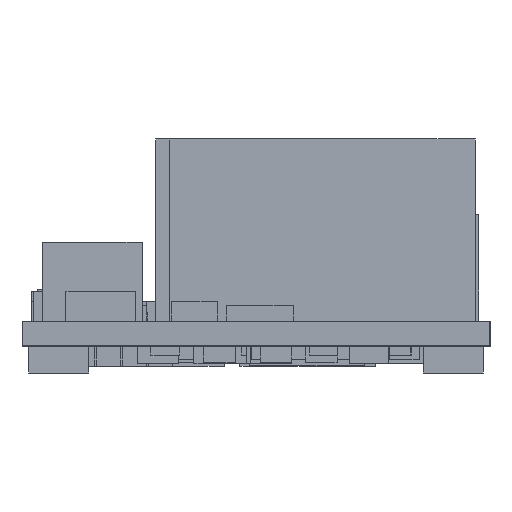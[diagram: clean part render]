
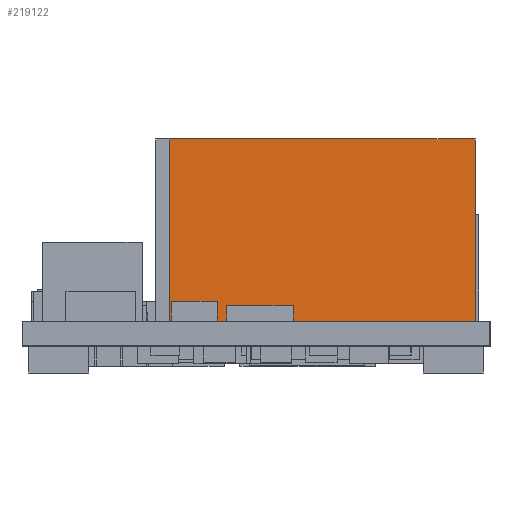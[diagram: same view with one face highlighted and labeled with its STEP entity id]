
A CAD part, left-side view. The second image highlights one B-rep face of the part: STEP entity #219122.
In plain terms, the highlighted face is a extrusion surface.
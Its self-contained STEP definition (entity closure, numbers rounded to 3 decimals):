
#219122 = ADVANCED_FACE('',(#219123),#219157,.T.);
#219123 = FACE_BOUND('',#219124,.T.);
#219124 = EDGE_LOOP('',(#219125,#219135,#219143,#219151));
#219125 = ORIENTED_EDGE('',*,*,#219126,.T.);
#219126 = EDGE_CURVE('',#219127,#219129,#219131,.T.);
#219127 = VERTEX_POINT('',#219128);
#219128 = CARTESIAN_POINT('',(3.432,-1.405,11.684));
#219129 = VERTEX_POINT('',#219130);
#219130 = CARTESIAN_POINT('',(3.33,18.176,11.684));
#219131 = LINE('',#219132,#219133);
#219132 = CARTESIAN_POINT('',(3.432,-1.405,11.684));
#219133 = VECTOR('',#219134,1.);
#219134 = DIRECTION('',(-0.005,1.,0.));
#219135 = ORIENTED_EDGE('',*,*,#219136,.T.);
#219136 = EDGE_CURVE('',#219129,#219137,#219139,.T.);
#219137 = VERTEX_POINT('',#219138);
#219138 = CARTESIAN_POINT('',(3.33,18.176,0.));
#219139 = LINE('',#219140,#219141);
#219140 = CARTESIAN_POINT('',(3.33,18.176,11.684));
#219141 = VECTOR('',#219142,1.);
#219142 = DIRECTION('',(0.,0.,-1.));
#219143 = ORIENTED_EDGE('',*,*,#219144,.T.);
#219144 = EDGE_CURVE('',#219137,#219145,#219147,.T.);
#219145 = VERTEX_POINT('',#219146);
#219146 = CARTESIAN_POINT('',(3.432,-1.405,0.));
#219147 = LINE('',#219148,#219149);
#219148 = CARTESIAN_POINT('',(3.33,18.176,0.));
#219149 = VECTOR('',#219150,1.);
#219150 = DIRECTION('',(0.005,-1.,0.));
#219151 = ORIENTED_EDGE('',*,*,#219152,.T.);
#219152 = EDGE_CURVE('',#219145,#219127,#219153,.T.);
#219153 = LINE('',#219154,#219155);
#219154 = CARTESIAN_POINT('',(3.432,-1.405,0.));
#219155 = VECTOR('',#219156,1.);
#219156 = DIRECTION('',(0.,0.,1.));
#219157 = SURFACE_OF_LINEAR_EXTRUSION('',#219158,#219162);
#219158 = LINE('',#219159,#219160);
#219159 = CARTESIAN_POINT('',(3.432,-1.405,0.));
#219160 = VECTOR('',#219161,1.);
#219161 = DIRECTION('',(0.,0.,1.));
#219162 = VECTOR('',#219163,1.);
#219163 = DIRECTION('',(-0.005,1.,0.));
